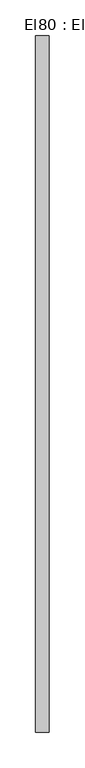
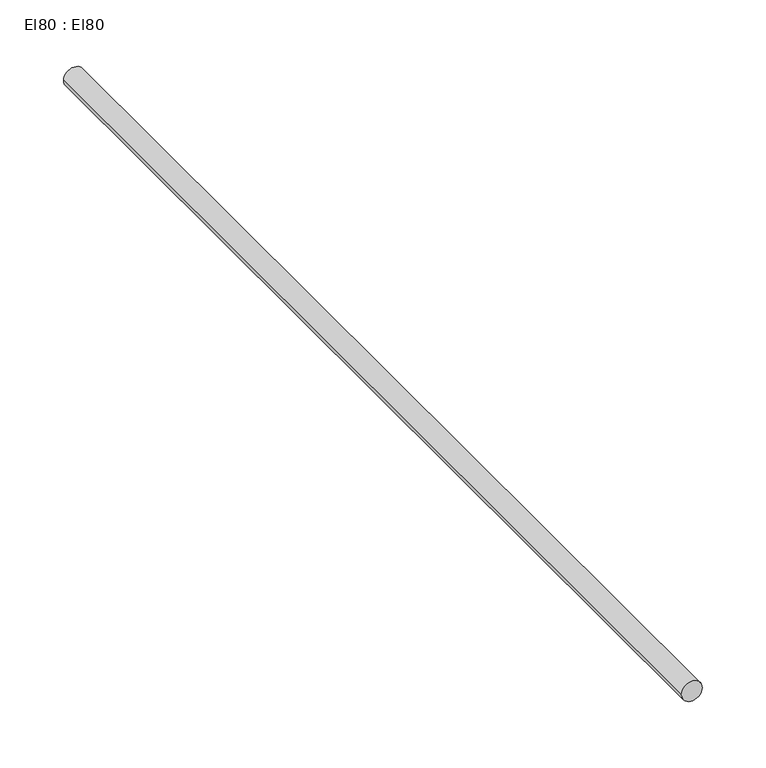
"""IFC4 building model written with IfcOpenShell, lengths in millimetres: cable carrier segment geometry, El80 : El80."""

from ifc_helpers import new_model, si_unit, point, frame, frame_2d, origin, place, context, project, spatial, circle_curve, trimmed, segment, composite_curve, outline, extrude, source, transform, mapped, element, save


def el80_el80_acf0720c(model_context):
    return source(origin(), model_context, "Body", "SweptSolid", [
        extrude(outline(composite_curve([segment(trimmed(circle_curve(frame_2d((300.0, 16300.0)), 9.5), [point((300.0, 16290.5))], [point((300.0, 16309.5))], False, "CARTESIAN"), True, "CONTINUOUS"), segment(trimmed(circle_curve(frame_2d((300.0, 16300.0)), 9.5), [point((300.0, 16309.5))], [point((300.0, 16290.5))], False, "CARTESIAN"), True, "CONTINUOUS")], self_intersect=False)), frame((0.0, 16530.207, 0.0), z_axis=(0.0, 1.0, 0.0), x_axis=(0.0, 0.0, 1.0)), (0.0, 0.0, 1.0), 972.386),
    ])


if __name__ == "__main__":
    model = new_model("IFC4")
    model_context = context("Model", 3, world=origin())
    ifc_project = project(units=[si_unit("LENGTHUNIT", "METRE", prefix="MILLI")], contexts=[model_context])
    site = spatial("IfcSite", under=ifc_project)
    building = spatial("IfcBuilding", under=site)
    placement = place(None, origin())
    el80_el80_shape = el80_el80_acf0720c(model_context)
    element("IfcCableCarrierSegment", 1, ObjectType="El80 : El80", at=placement, inside=building, context=model_context, shape_type="MappedRepresentation", body=[
        mapped(el80_el80_shape, transform((0.0, 0.0, 0.0), x_axis=(1.0, 0.0, 0.0), y_axis=(0.0, 1.0, 0.0), z_axis=(0.0, 0.0, 1.0))),
    ])
    save(model, "model.ifc")
